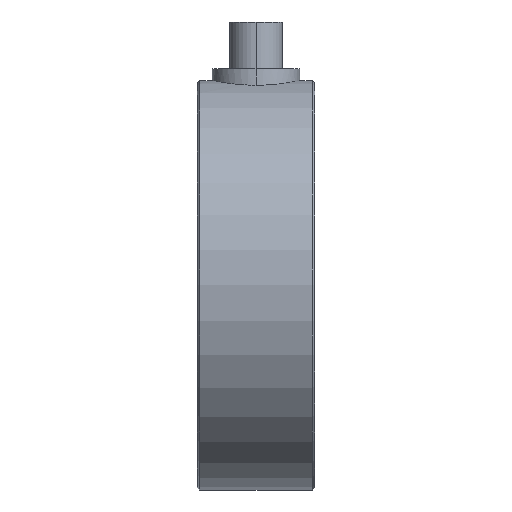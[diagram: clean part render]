
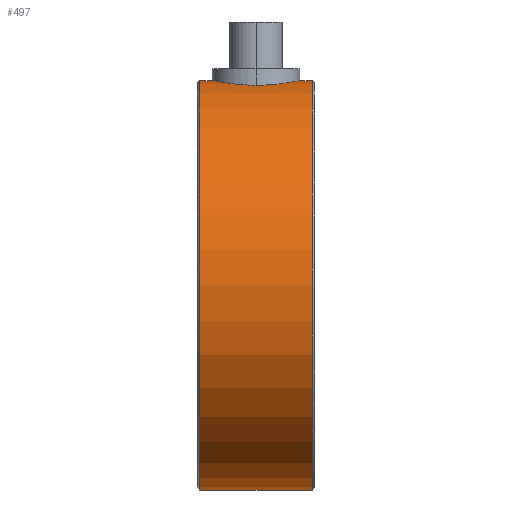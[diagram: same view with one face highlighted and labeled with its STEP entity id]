
A CAD part, left-side view. The second image highlights one B-rep face of the part: STEP entity #497.
In plain terms, the highlighted cylindrical face has radius 44.45 mm (diameter 88.9 mm), a partial arc.
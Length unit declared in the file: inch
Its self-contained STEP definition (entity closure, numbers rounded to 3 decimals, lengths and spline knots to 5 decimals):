
#15 = CARTESIAN_POINT ( 'NONE',  ( 0., 1., 1.75 ) ) ;
#16 = DIRECTION ( 'NONE',  ( 0., -1., 0. ) ) ;
#48 = CARTESIAN_POINT ( 'NONE',  ( 0., 1., -1.75 ) ) ;
#123 = DIRECTION ( 'NONE',  ( 0., -1., 0. ) ) ;
#134 = CARTESIAN_POINT ( 'NONE',  ( 0., 1., 0. ) ) ;
#135 = DIRECTION ( 'NONE',  ( 0., 0., -1. ) ) ;
#203 = B_SPLINE_CURVE_WITH_KNOTS ( 'NONE', 3,
 ( #834, #836, #832, #871, #842, #839, #843, #845, #877, #874, #855, #873, #856, #840, #850, #841, #859, #870, #864, #872, #861, #854, #862, #847, #844, #848 ),
 .UNSPECIFIED., .F., .F.,
 ( 4, 2, 2, 2, 2, 2, 2, 2, 2, 2, 2, 2, 4 ),
 ( 0., 0.00187, 0.0028, 0.00373, 0.0056, 0.00653, 0.00747, 0.00934, 0.01027, 0.0112, 0.01214, 0.01307, 0.01494 ),
 .UNSPECIFIED. ) ;
#218 = ORIENTED_EDGE ( 'NONE', *, *, #679, .F. ) ;
#221 = ORIENTED_EDGE ( 'NONE', *, *, #646, .T. ) ;
#235 = ORIENTED_EDGE ( 'NONE', *, *, #674, .F. ) ;
#243 = ORIENTED_EDGE ( 'NONE', *, *, #682, .T. ) ;
#247 = ORIENTED_EDGE ( 'NONE', *, *, #627, .F. ) ;
#255 = ORIENTED_EDGE ( 'NONE', *, *, #677, .T. ) ;
#258 = ORIENTED_EDGE ( 'NONE', *, *, #653, .F. ) ;
#353 = EDGE_LOOP ( 'NONE', ( #258, #255, #221, #243, #247, #218, #235 ) ) ;
#371 = VERTEX_POINT ( 'NONE', #407 ) ;
#373 = VERTEX_POINT ( 'NONE', #415 ) ;
#374 = VERTEX_POINT ( 'NONE', #409 ) ;
#375 = VERTEX_POINT ( 'NONE', #429 ) ;
#378 = VERTEX_POINT ( 'NONE', #440 ) ;
#387 = VERTEX_POINT ( 'NONE', #408 ) ;
#398 = VERTEX_POINT ( 'NONE', #432 ) ;
#407 = CARTESIAN_POINT ( 'NONE',  ( -0.375, 0.5, 1.70935 ) ) ;
#408 = CARTESIAN_POINT ( 'NONE',  ( 0., 0.98, -1.75 ) ) ;
#409 = CARTESIAN_POINT ( 'NONE',  ( 0., 0.98, 1.75 ) ) ;
#415 = CARTESIAN_POINT ( 'NONE',  ( 0., 0.875, 1.75 ) ) ;
#429 = CARTESIAN_POINT ( 'NONE',  ( 0., 0.02, 1.75 ) ) ;
#432 = CARTESIAN_POINT ( 'NONE',  ( 0., 0.02, -1.75 ) ) ;
#440 = CARTESIAN_POINT ( 'NONE',  ( 0., 0.125, 1.75 ) ) ;
#497 = ADVANCED_FACE ( 'NONE', ( #971 ), #934, .T. ) ;
#508 = CARTESIAN_POINT ( 'NONE',  ( 0., 1., 1.75 ) ) ;
#509 = DIRECTION ( 'NONE',  ( 0., -1., 0. ) ) ;
#604 = DIRECTION ( 'NONE',  ( 0., -1., 0. ) ) ;
#627 = EDGE_CURVE ( 'NONE', #378, #375, #950, .T. ) ;
#646 = EDGE_CURVE ( 'NONE', #387, #398, #1013, .T. ) ;
#653 = EDGE_CURVE ( 'NONE', #374, #373, #985, .T. ) ;
#674 = EDGE_CURVE ( 'NONE', #373, #371, #885, .T. ) ;
#677 = EDGE_CURVE ( 'NONE', #374, #387, #1042, .T. ) ;
#679 = EDGE_CURVE ( 'NONE', #371, #378, #203, .T. ) ;
#682 = EDGE_CURVE ( 'NONE', #398, #375, #1035, .T. ) ;
#715 = AXIS2_PLACEMENT_3D ( 'NONE', #134, #123, #135 ) ;
#767 = AXIS2_PLACEMENT_3D ( 'NONE', #851, #876, #852 ) ;
#772 = AXIS2_PLACEMENT_3D ( 'NONE', #801, #833, #837 ) ;
#797 = CARTESIAN_POINT ( 'NONE',  ( -0.25645, 0.77387, 1.73113 ) ) ;
#798 = CARTESIAN_POINT ( 'NONE',  ( -0.32532, 0.68814, 1.71955 ) ) ;
#801 = CARTESIAN_POINT ( 'NONE',  ( 0., 0.98, 0. ) ) ;
#803 = CARTESIAN_POINT ( 'NONE',  ( -0.3653, 0.58562, 1.71145 ) ) ;
#804 = CARTESIAN_POINT ( 'NONE',  ( -0.35506, 0.62127, 1.71361 ) ) ;
#805 = CARTESIAN_POINT ( 'NONE',  ( -0.24742, 0.78206, 1.73245 ) ) ;
#807 = CARTESIAN_POINT ( 'NONE',  ( -0.18789, 0.82546, 1.74001 ) ) ;
#809 = CARTESIAN_POINT ( 'NONE',  ( -0.28229, 0.74805, 1.72717 ) ) ;
#810 = CARTESIAN_POINT ( 'NONE',  ( -0.29787, 0.72914, 1.72452 ) ) ;
#811 = CARTESIAN_POINT ( 'NONE',  ( -0.37256, 0.54935, 1.70989 ) ) ;
#814 = CARTESIAN_POINT ( 'NONE',  ( -0.09719, 0.86301, 1.74746 ) ) ;
#815 = CARTESIAN_POINT ( 'NONE',  ( -0.16637, 0.83697, 1.74222 ) ) ;
#816 = CARTESIAN_POINT ( 'NONE',  ( -0.36226, 0.59769, 1.7121 ) ) ;
#817 = CARTESIAN_POINT ( 'NONE',  ( -0.375, 0.52484, 1.70935 ) ) ;
#818 = CARTESIAN_POINT ( 'NONE',  ( -0.02474, 0.875, 1.75 ) ) ;
#820 = CARTESIAN_POINT ( 'NONE',  ( -0.04912, 0.87258, 1.74948 ) ) ;
#821 = CARTESIAN_POINT ( 'NONE',  ( -0.375, 0.5, 1.70935 ) ) ;
#823 = CARTESIAN_POINT ( 'NONE',  ( 0., 0.875, 1.75 ) ) ;
#824 = CARTESIAN_POINT ( 'NONE',  ( -0.21851, 0.80501, 1.73634 ) ) ;
#825 = CARTESIAN_POINT ( 'NONE',  ( -0.12111, 0.85575, 1.74595 ) ) ;
#826 = CARTESIAN_POINT ( 'NONE',  ( -0.33684, 0.66661, 1.7173 ) ) ;
#827 = CARTESIAN_POINT ( 'NONE',  ( -0.35091, 0.6328, 1.71446 ) ) ;
#829 = CARTESIAN_POINT ( 'NONE',  ( -0.22847, 0.79762, 1.73505 ) ) ;
#832 = CARTESIAN_POINT ( 'NONE',  ( -0.37255, 0.45071, 1.70989 ) ) ;
#833 = DIRECTION ( 'NONE',  ( 0., -1., 0. ) ) ;
#834 = CARTESIAN_POINT ( 'NONE',  ( -0.375, 0.5, 1.70935 ) ) ;
#836 = CARTESIAN_POINT ( 'NONE',  ( -0.375, 0.47514, 1.70935 ) ) ;
#837 = DIRECTION ( 'NONE',  ( 0., 0., 1. ) ) ;
#839 = CARTESIAN_POINT ( 'NONE',  ( -0.35521, 0.37917, 1.71357 ) ) ;
#840 = CARTESIAN_POINT ( 'NONE',  ( -0.2478, 0.21748, 1.73245 ) ) ;
#841 = CARTESIAN_POINT ( 'NONE',  ( -0.19821, 0.18143, 1.73877 ) ) ;
#842 = CARTESIAN_POINT ( 'NONE',  ( -0.36239, 0.40277, 1.71207 ) ) ;
#843 = CARTESIAN_POINT ( 'NONE',  ( -0.35101, 0.36746, 1.71444 ) ) ;
#844 = CARTESIAN_POINT ( 'NONE',  ( -0.02455, 0.125, 1.75 ) ) ;
#845 = CARTESIAN_POINT ( 'NONE',  ( -0.33687, 0.33342, 1.7173 ) ) ;
#847 = CARTESIAN_POINT ( 'NONE',  ( -0.04894, 0.12739, 1.74948 ) ) ;
#848 = CARTESIAN_POINT ( 'NONE',  ( 0., 0.125, 1.75 ) ) ;
#850 = CARTESIAN_POINT ( 'NONE',  ( -0.22896, 0.20199, 1.73508 ) ) ;
#851 = CARTESIAN_POINT ( 'NONE',  ( 0., 0.02, 0. ) ) ;
#852 = DIRECTION ( 'NONE',  ( 0., 0., 1. ) ) ;
#854 = CARTESIAN_POINT ( 'NONE',  ( -0.09736, 0.13765, 1.74733 ) ) ;
#855 = CARTESIAN_POINT ( 'NONE',  ( -0.29754, 0.27143, 1.72454 ) ) ;
#856 = CARTESIAN_POINT ( 'NONE',  ( -0.27368, 0.24334, 1.72849 ) ) ;
#859 = CARTESIAN_POINT ( 'NONE',  ( -0.1876, 0.17507, 1.73995 ) ) ;
#861 = CARTESIAN_POINT ( 'NONE',  ( -0.12088, 0.1448, 1.74586 ) ) ;
#862 = CARTESIAN_POINT ( 'NONE',  ( -0.08528, 0.13462, 1.74796 ) ) ;
#864 = CARTESIAN_POINT ( 'NONE',  ( -0.15496, 0.1583, 1.74316 ) ) ;
#870 = CARTESIAN_POINT ( 'NONE',  ( -0.166, 0.16352, 1.74214 ) ) ;
#871 = CARTESIAN_POINT ( 'NONE',  ( -0.36537, 0.41468, 1.71144 ) ) ;
#872 = CARTESIAN_POINT ( 'NONE',  ( -0.1324, 0.14894, 1.74502 ) ) ;
#873 = CARTESIAN_POINT ( 'NONE',  ( -0.28191, 0.2524, 1.72716 ) ) ;
#874 = CARTESIAN_POINT ( 'NONE',  ( -0.30491, 0.28136, 1.72325 ) ) ;
#876 = DIRECTION ( 'NONE',  ( 0., 1., 0. ) ) ;
#877 = CARTESIAN_POINT ( 'NONE',  ( -0.32534, 0.3119, 1.71955 ) ) ;
#885 = B_SPLINE_CURVE_WITH_KNOTS ( 'NONE', 3,
 ( #823, #818, #820, #814, #825, #815, #807, #824, #829, #805, #797, #809, #810, #798, #826, #827, #804, #816, #803, #811, #817, #821 ),
 .UNSPECIFIED., .F., .F.,
 ( 4, 2, 2, 2, 2, 2, 2, 2, 2, 2, 4 ),
 ( 0.0448, 0.04667, 0.04853, 0.0504, 0.05133, 0.05226, 0.05413, 0.05599, 0.05693, 0.05786, 0.05972 ),
 .UNSPECIFIED. ) ;
#934 = CYLINDRICAL_SURFACE ( 'NONE', #715, 1.75 ) ;
#950 = LINE ( 'NONE', #15, #951 ) ;
#951 = VECTOR ( 'NONE', #16, 39.37008 ) ;
#971 = FACE_OUTER_BOUND ( 'NONE', #353, .T. ) ;
#985 = LINE ( 'NONE', #508, #1017 ) ;
#987 = VECTOR ( 'NONE', #604, 39.37008 ) ;
#1013 = LINE ( 'NONE', #48, #987 ) ;
#1017 = VECTOR ( 'NONE', #509, 39.37008 ) ;
#1035 = CIRCLE ( 'NONE', #767, 1.75 ) ;
#1042 = CIRCLE ( 'NONE', #772, 1.75 ) ;
